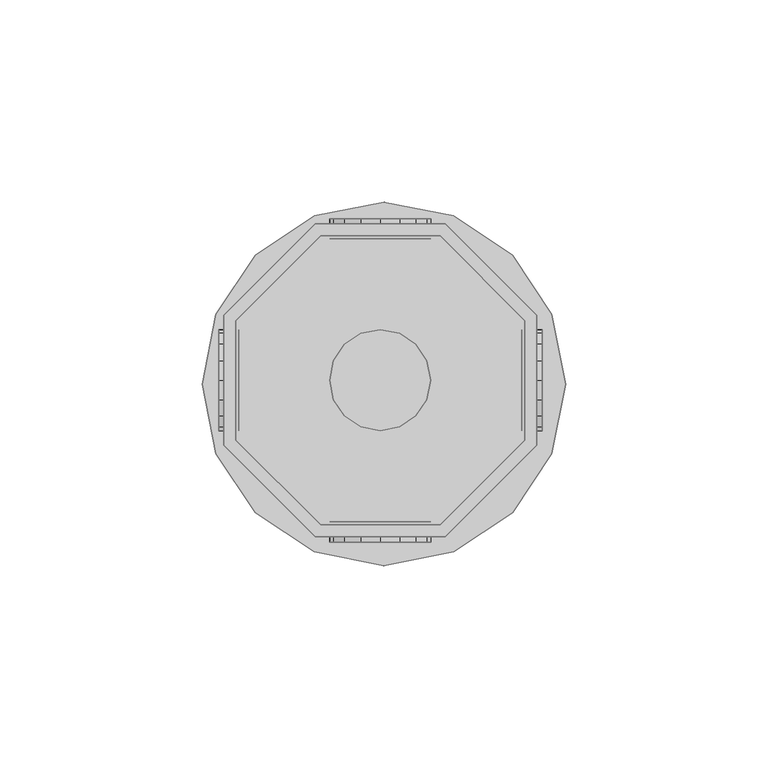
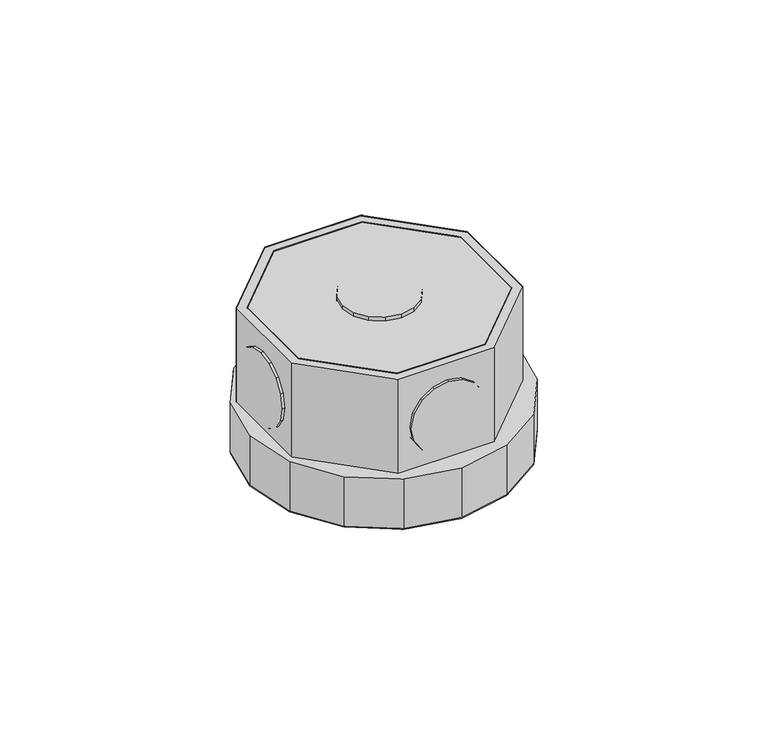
"""IFC4 building model written with IfcOpenShell, lengths in millimetres: light fixture geometry,  213928 :  213928."""

from ifc_helpers import new_model, si_unit, origin, place, context, project, spatial, triangles, source, transform, mapped, element, save


def light_fixture_44fb12f3(model_context):
    return source(origin(), model_context, "Body", "Tessellation", [
        triangles([(10490.0003998, 27008.0002991, 2924.5999741), (10460.399881, 27008.0002991, 2975.400071), (10460.399881, 27008.0002991, 2924.5999741), (10490.0003998, 27008.0002991, 2975.400071), (10491.2003265, 26933.5001953, 2924.5999741), (10459.0999603, 26933.5001953, 2975.400071), (10459.0999603, 26933.5001953, 2924.5999741), (10491.2003265, 26933.5001953, 2975.400071), (10439.4, 26986.9992554, 2975.400071), (10439.4, 26986.9992554, 2924.5999741), (10513.9001038, 26956.2011353, 2924.5999741), (10513.9001038, 26956.2011353, 2975.400071), (10439.4, 26957.401062, 2975.400071), (10439.4, 26957.401062, 2924.5999741), (10513.9001038, 26988.299176, 2924.5999741), (10513.9001038, 26988.299176, 2975.400071), (10460.399881, 26936.5000122, 2975.400071), (10460.399881, 26936.5000122, 2924.5999741), (10491.2003265, 27011.000116, 2924.5999741), (10491.2003265, 27011.000116, 2975.400071), (10490.0003998, 26936.5000122, 2924.5999741), (10490.0003998, 26936.5000122, 2975.400071), (10459.0999603, 27011.000116, 2975.400071), (10459.0999603, 27011.000116, 2924.5999741), (10510.9002869, 26957.401062, 2924.5999741), (10510.9002869, 26957.401062, 2975.400071), (10436.4001831, 26988.299176, 2975.400071), (10436.4001831, 26988.299176, 2924.5999741), (10436.4001831, 26956.2011353, 2975.400071), (10510.9002869, 26986.9992554, 2975.400071), (10510.9002869, 26986.9992554, 2924.5999741), (10436.4001831, 26956.2011353, 2924.5999741), (10439.4, 26957.401062, 2972.3999634), (10460.399881, 26936.5000122, 2972.3999634), (10490.0003998, 26936.5000122, 2972.3999634), (10510.9002869, 26957.401062, 2972.3999634), (10510.9002869, 26986.9992554, 2972.3999634), (10490.0003998, 27008.0002991, 2972.3999634), (10460.399881, 27008.0002991, 2972.3999634), (10439.4, 26986.9992554, 2972.3999634), (10436.4001831, 26988.299176, 2942.4000504), (10459.0999603, 27011.000116, 2942.4000504), (10491.2003265, 27011.000116, 2942.4000504), (10513.9001038, 26988.299176, 2942.4000504), (10513.9001038, 26956.2011353, 2942.4000504), (10491.2003265, 26933.5001953, 2942.4000504), (10459.0999603, 26933.5001953, 2942.4000504), (10436.4001831, 26956.2011353, 2942.4000504), (10458.7999786, 26929.8004211, 2942.4000504), (10434.5002991, 26954.098938, 2942.4000504), (10444.199707, 26939.4998291, 2942.4000504), (10431.1005066, 26971.3002136, 2942.4000504), (10434.5002991, 26988.5991577, 2942.4000504), (10444.199707, 27003.200592, 2942.4000504), (10458.7999786, 27012.9, 2942.4000504), (10476.1000854, 27016.2997925, 2942.4000504), (10493.3001984, 27012.9, 2942.4000504), (10517.5998779, 26988.5991577, 2942.4000504), (10507.90047, 27003.200592, 2942.4000504), (10476.1000854, 26926.3006348, 2942.4000504), (10493.3001984, 26929.8004211, 2942.4000504), (10507.90047, 26939.4998291, 2942.4000504), (10517.5998779, 26954.098938, 2942.4000504), (10521.0996643, 26971.3002136, 2942.4000504), (10434.5002991, 26954.098938, 2924.5999741), (10458.7999786, 26929.8004211, 2924.5999741), (10444.199707, 26939.4998291, 2924.5999741), (10431.1005066, 26971.3002136, 2924.5999741), (10434.5002991, 26988.5991577, 2924.5999741), (10444.199707, 27003.200592, 2924.5999741), (10458.7999786, 27012.9, 2924.5999741), (10476.1000854, 27016.2997925, 2924.5999741), (10493.3001984, 27012.9, 2924.5999741), (10517.5998779, 26988.5991577, 2924.5999741), (10507.90047, 27003.200592, 2924.5999741), (10476.1000854, 26926.3006348, 2924.5999741), (10493.3001984, 26929.8004211, 2924.5999741), (10507.90047, 26939.4998291, 2924.5999741), (10517.5998779, 26954.098938, 2924.5999741), (10521.0996643, 26971.3002136, 2924.5999741), (10463.5996857, 27012.2000427, 2952.6000092), (10470.4004333, 27012.2000427, 2945.9001274), (10466.2995209, 27012.2000427, 2948.5999626), (10462.6997406, 27012.2000427, 2957.4000069), (10475.2001404, 27012.2000427, 2944.8998978), (10463.5996857, 27012.2000427, 2962.2000046), (10479.9998474, 27012.2000427, 2945.9001274), (10466.2995209, 27012.2000427, 2966.2000511), (10483.9996033, 27012.2000427, 2948.5999626), (10470.4004333, 27012.2000427, 2968.8998863), (10486.6994385, 27012.2000427, 2952.6000092), (10475.2001404, 27012.2000427, 2969.900116), (10487.7005402, 27012.2000427, 2957.4000069), (10479.9998474, 27012.2000427, 2968.8998863), (10486.6994385, 27012.2000427, 2962.2000046), (10483.9996033, 27012.2000427, 2966.2000511), (10470.4004333, 27007.2003479, 2945.9001274), (10463.5996857, 27007.2003479, 2952.6000092), (10466.2995209, 27007.2003479, 2948.5999626), (10475.2001404, 27007.2003479, 2944.8998978), (10462.6997406, 27007.2003479, 2957.4000069), (10479.9998474, 27007.2003479, 2945.9001274), (10463.5996857, 27007.2003479, 2962.2000046), (10483.9996033, 27007.2003479, 2948.5999626), (10466.2995209, 27007.2003479, 2966.2000511), (10470.4004333, 27007.2003479, 2968.8998863), (10486.6994385, 27007.2003479, 2952.6000092), (10475.2001404, 27007.2003479, 2969.900116), (10487.7005402, 27007.2003479, 2957.4000069), (10479.9998474, 27007.2003479, 2968.8998863), (10486.6994385, 27007.2003479, 2962.2000046), (10483.9996033, 27007.2003479, 2966.2000511), (10463.5996857, 26937.1999695, 2952.6000092), (10470.4004333, 26937.1999695, 2945.9001274), (10466.2995209, 26937.1999695, 2948.5999626), (10462.6997406, 26937.1999695, 2957.4000069), (10475.2001404, 26937.1999695, 2944.8998978), (10463.5996857, 26937.1999695, 2962.2000046), (10479.9998474, 26937.1999695, 2945.9001274), (10466.2995209, 26937.1999695, 2966.2000511), (10483.9996033, 26937.1999695, 2948.5999626), (10470.4004333, 26937.1999695, 2968.8998863), (10486.6994385, 26937.1999695, 2952.6000092), (10475.2001404, 26937.1999695, 2969.900116), (10487.7005402, 26937.1999695, 2957.4000069), (10479.9998474, 26937.1999695, 2968.8998863), (10486.6994385, 26937.1999695, 2962.2000046), (10483.9996033, 26937.1999695, 2966.2000511), (10470.4004333, 26932.2002747, 2945.9001274), (10463.5996857, 26932.2002747, 2952.6000092), (10466.2995209, 26932.2002747, 2948.5999626), (10475.2001404, 26932.2002747, 2944.8998978), (10462.6997406, 26932.2002747, 2957.4000069), (10479.9998474, 26932.2002747, 2945.9001274), (10463.5996857, 26932.2002747, 2962.2000046), (10483.9996033, 26932.2002747, 2948.5999626), (10466.2995209, 26932.2002747, 2966.2000511), (10470.4004333, 26932.2002747, 2968.8998863), (10486.6994385, 26932.2002747, 2952.6000092), (10475.2001404, 26932.2002747, 2969.900116), (10487.7005402, 26932.2002747, 2957.4000069), (10479.9998474, 26932.2002747, 2968.8998863), (10486.6994385, 26932.2002747, 2962.2000046), (10483.9996033, 26932.2002747, 2966.2000511), (10440.1999512, 26967.4004517, 2945.9001274), (10440.1999512, 26960.7008606, 2952.6000092), (10440.1999512, 26963.4006958, 2948.5999626), (10440.1999512, 26972.2001587, 2944.8998978), (10440.1999512, 26959.7009216, 2957.4000069), (10440.1999512, 26976.9998657, 2945.9001274), (10440.1999512, 26960.7008606, 2962.2000046), (10440.1999512, 26981.0996155, 2948.5999626), (10440.1999512, 26963.4006958, 2966.2000511), (10440.1999512, 26967.4004517, 2968.8998863), (10440.1999512, 26983.7994507, 2952.6000092), (10440.1999512, 26972.2001587, 2969.900116), (10440.1999512, 26984.6993958, 2957.4000069), (10440.1999512, 26976.9998657, 2968.8998863), (10440.1999512, 26983.7994507, 2962.2000046), (10440.1999512, 26981.0996155, 2966.2000511), (10435.2002563, 26960.7008606, 2952.6000092), (10435.2002563, 26967.4004517, 2945.9001274), (10435.2002563, 26963.4006958, 2948.5999626), (10435.2002563, 26959.7009216, 2957.4000069), (10435.2002563, 26972.2001587, 2944.8998978), (10435.2002563, 26960.7008606, 2962.2000046), (10435.2002563, 26976.9998657, 2945.9001274), (10435.2002563, 26963.4006958, 2966.2000511), (10435.2002563, 26981.0996155, 2948.5999626), (10435.2002563, 26967.4004517, 2968.8998863), (10435.2002563, 26983.7994507, 2952.6000092), (10435.2002563, 26972.2001587, 2969.900116), (10435.2002563, 26984.6993958, 2957.4000069), (10435.2002563, 26976.9998657, 2968.8998863), (10435.2002563, 26983.7994507, 2962.2000046), (10435.2002563, 26981.0996155, 2966.2000511), (10515.2000244, 26967.4004517, 2945.9001274), (10515.2000244, 26960.7008606, 2952.6000092), (10515.2000244, 26963.4006958, 2948.5999626), (10515.2000244, 26972.2001587, 2944.8998978), (10515.2000244, 26959.7009216, 2957.4000069), (10515.2000244, 26976.9998657, 2945.9001274), (10515.2000244, 26960.7008606, 2962.2000046), (10515.2000244, 26981.0996155, 2948.5999626), (10515.2000244, 26963.4006958, 2966.2000511), (10515.2000244, 26967.4004517, 2968.8998863), (10515.2000244, 26983.7994507, 2952.6000092), (10515.2000244, 26972.2001587, 2969.900116), (10515.2000244, 26984.6993958, 2957.4000069), (10515.2000244, 26976.9998657, 2968.8998863), (10515.2000244, 26983.7994507, 2962.2000046), (10515.2000244, 26981.0996155, 2966.2000511), (10510.2003296, 26960.7008606, 2952.6000092), (10510.2003296, 26967.4004517, 2945.9001274), (10510.2003296, 26963.4006958, 2948.5999626), (10510.2003296, 26959.7009216, 2957.4000069), (10510.2003296, 26972.2001587, 2944.8998978), (10510.2003296, 26960.7008606, 2962.2000046), (10510.2003296, 26976.9998657, 2945.9001274), (10510.2003296, 26963.4006958, 2966.2000511), (10510.2003296, 26981.0996155, 2948.5999626), (10510.2003296, 26967.4004517, 2968.8998863), (10510.2003296, 26983.7994507, 2952.6000092), (10510.2003296, 26972.2001587, 2969.900116), (10510.2003296, 26984.6993958, 2957.4000069), (10510.2003296, 26976.9998657, 2968.8998863), (10510.2003296, 26983.7994507, 2962.2000046), (10510.2003296, 26981.0996155, 2966.2000511), (10470.4004333, 26960.7008606, 2976.9999733), (10463.5996857, 26967.4004517, 2976.9999733), (10466.2995209, 26963.4006958, 2976.9999733), (10462.6997406, 26972.2001587, 2976.9999733), (10475.2001404, 26959.7009216, 2976.9999733), (10463.5996857, 26976.9998657, 2976.9999733), (10479.9998474, 26960.7008606, 2976.9999733), (10466.2995209, 26981.0996155, 2976.9999733), (10483.9996033, 26963.4006958, 2976.9999733), (10470.4004333, 26983.7994507, 2976.9999733), (10486.6994385, 26967.4004517, 2976.9999733), (10475.2001404, 26984.6993958, 2976.9999733), (10487.7005402, 26972.2001587, 2976.9999733), (10479.9998474, 26983.7994507, 2976.9999733), (10486.6994385, 26976.9998657, 2976.9999733), (10483.9996033, 26981.0996155, 2976.9999733), (10463.5996857, 26967.4004517, 2971.9999878), (10470.4004333, 26960.7008606, 2971.9999878), (10466.2995209, 26963.4006958, 2971.9999878), (10462.6997406, 26972.2001587, 2971.9999878), (10475.2001404, 26959.7009216, 2971.9999878), (10463.5996857, 26976.9998657, 2971.9999878), (10479.9998474, 26960.7008606, 2971.9999878), (10466.2995209, 26981.0996155, 2971.9999878), (10483.9996033, 26963.4006958, 2971.9999878), (10470.4004333, 26983.7994507, 2971.9999878), (10486.6994385, 26967.4004517, 2971.9999878), (10475.2001404, 26984.6993958, 2971.9999878), (10487.7005402, 26972.2001587, 2971.9999878), (10479.9998474, 26983.7994507, 2971.9999878), (10486.6994385, 26976.9998657, 2971.9999878), (10483.9996033, 26981.0996155, 2971.9999878)], [[1, 2, 3], [2, 1, 4], [5, 6, 7], [6, 5, 8], [3, 9, 10], [9, 3, 2], [11, 8, 5], [8, 11, 12], [10, 13, 14], [13, 10, 9], [15, 12, 11], [12, 15, 16], [14, 17, 18], [17, 14, 13], [19, 16, 15], [16, 19, 20], [17, 21, 18], [21, 17, 22], [23, 19, 24], [19, 23, 20], [22, 25, 21], [25, 22, 26], [27, 24, 28], [24, 27, 23], [6, 13, 29], [29, 13, 27], [27, 13, 9], [27, 9, 23], [23, 9, 2], [23, 2, 4], [23, 4, 20], [20, 4, 30], [8, 17, 6], [6, 17, 13], [17, 8, 22], [12, 22, 8], [22, 12, 26], [30, 26, 12], [16, 30, 12], [20, 30, 16], [30, 1, 31], [1, 30, 4], [6, 32, 7], [32, 6, 29], [32, 14, 7], [28, 14, 32], [14, 28, 10], [24, 10, 28], [10, 24, 3], [1, 3, 24], [19, 1, 24], [31, 1, 19], [7, 18, 5], [14, 18, 7], [5, 18, 21], [5, 21, 11], [11, 21, 25], [11, 25, 31], [11, 31, 15], [15, 31, 19], [26, 31, 25], [31, 26, 30], [29, 28, 32], [28, 29, 27], [17, 33, 34], [33, 17, 13], [35, 17, 34], [17, 35, 22], [36, 22, 35], [22, 36, 26], [37, 26, 36], [26, 37, 30], [38, 30, 37], [30, 38, 4], [2, 38, 39], [38, 2, 4], [17, 9, 13], [9, 17, 22], [9, 22, 2], [2, 22, 26], [2, 26, 4], [4, 26, 30], [13, 40, 33], [40, 13, 9], [40, 34, 33], [35, 34, 40], [35, 40, 39], [35, 39, 36], [36, 39, 38], [36, 38, 37], [9, 39, 40], [39, 9, 2], [24, 41, 28], [41, 24, 42], [19, 42, 24], [42, 19, 43], [44, 19, 15], [19, 44, 43], [45, 15, 11], [15, 45, 44], [46, 11, 5], [11, 46, 45], [47, 5, 7], [5, 47, 46], [32, 47, 7], [47, 32, 48], [28, 48, 32], [48, 28, 41], [49, 50, 51], [48, 50, 49], [50, 48, 52], [41, 52, 48], [52, 41, 53], [53, 41, 54], [42, 54, 41], [54, 42, 55], [55, 42, 43], [55, 43, 56], [56, 43, 57], [57, 43, 44], [57, 44, 58], [57, 58, 59], [47, 49, 60], [49, 47, 48], [47, 60, 46], [61, 46, 60], [46, 61, 62], [46, 62, 45], [45, 62, 63], [44, 45, 63], [44, 63, 64], [44, 64, 58], [65, 66, 67], [66, 65, 32], [68, 32, 65], [32, 68, 28], [28, 68, 69], [70, 28, 69], [28, 70, 24], [71, 24, 70], [19, 24, 71], [19, 71, 72], [73, 19, 72], [19, 73, 15], [74, 15, 73], [74, 73, 75], [76, 66, 7], [32, 7, 66], [5, 76, 7], [76, 5, 77], [77, 5, 78], [11, 78, 5], [78, 11, 79], [79, 11, 15], [79, 15, 80], [80, 15, 74], [57, 75, 73], [75, 57, 59], [56, 73, 72], [73, 56, 57], [55, 72, 71], [72, 55, 56], [54, 71, 70], [71, 54, 55], [53, 70, 69], [70, 53, 54], [52, 69, 68], [69, 52, 53], [50, 68, 65], [68, 50, 52], [51, 65, 67], [65, 51, 50], [66, 51, 67], [51, 66, 49], [76, 49, 66], [49, 76, 60], [77, 60, 76], [60, 77, 61], [78, 61, 77], [61, 78, 62], [79, 62, 78], [62, 79, 63], [80, 63, 79], [63, 80, 64], [75, 58, 74], [58, 75, 59], [74, 64, 80], [64, 74, 58], [81, 82, 83], [82, 81, 84], [85, 82, 84], [85, 84, 86], [87, 85, 86], [87, 86, 88], [87, 88, 89], [89, 88, 90], [89, 90, 91], [91, 90, 92], [91, 92, 93], [93, 92, 94], [93, 94, 95], [95, 94, 96], [97, 98, 99], [98, 97, 100], [101, 98, 100], [101, 100, 102], [103, 101, 102], [103, 102, 104], [103, 104, 105], [105, 104, 106], [106, 104, 107], [106, 107, 108], [108, 107, 109], [108, 109, 110], [110, 109, 111], [110, 111, 112], [87, 104, 102], [104, 87, 89], [85, 102, 100], [102, 85, 87], [82, 100, 97], [100, 82, 85], [83, 97, 99], [97, 83, 82], [98, 83, 99], [83, 98, 81], [101, 81, 98], [81, 101, 84], [103, 84, 101], [84, 103, 86], [105, 86, 103], [86, 105, 88], [106, 88, 105], [88, 106, 90], [108, 90, 106], [90, 108, 92], [110, 92, 108], [92, 110, 94], [112, 94, 110], [94, 112, 96], [95, 112, 111], [112, 95, 96], [93, 111, 109], [111, 93, 95], [89, 107, 104], [107, 89, 91], [91, 109, 107], [109, 91, 93], [113, 114, 115], [114, 113, 116], [117, 114, 116], [117, 116, 118], [119, 117, 118], [119, 118, 120], [119, 120, 121], [121, 120, 122], [121, 122, 123], [123, 122, 124], [123, 124, 125], [125, 124, 126], [125, 126, 127], [127, 126, 128], [129, 130, 131], [130, 129, 132], [133, 130, 132], [133, 132, 134], [135, 133, 134], [135, 134, 136], [135, 136, 137], [137, 136, 138], [138, 136, 139], [138, 139, 140], [140, 139, 141], [140, 141, 142], [142, 141, 143], [142, 143, 144], [119, 136, 134], [136, 119, 121], [117, 134, 132], [134, 117, 119], [114, 132, 129], [132, 114, 117], [115, 129, 131], [129, 115, 114], [130, 115, 131], [115, 130, 113], [133, 113, 130], [113, 133, 116], [135, 116, 133], [116, 135, 118], [137, 118, 135], [118, 137, 120], [138, 120, 137], [120, 138, 122], [140, 122, 138], [122, 140, 124], [142, 124, 140], [124, 142, 126], [144, 126, 142], [126, 144, 128], [127, 144, 143], [144, 127, 128], [125, 143, 141], [143, 125, 127], [121, 139, 136], [139, 121, 123], [123, 141, 139], [141, 123, 125], [145, 146, 147], [146, 145, 148], [149, 146, 148], [149, 148, 150], [151, 149, 150], [151, 150, 152], [151, 152, 153], [153, 152, 154], [154, 152, 155], [154, 155, 156], [156, 155, 157], [156, 157, 158], [158, 157, 159], [158, 159, 160], [161, 162, 163], [162, 161, 164], [165, 162, 164], [165, 164, 166], [167, 165, 166], [167, 166, 168], [169, 167, 168], [169, 168, 170], [169, 170, 171], [171, 170, 172], [171, 172, 173], [173, 172, 174], [173, 174, 175], [175, 174, 176], [158, 176, 174], [176, 158, 160], [156, 174, 172], [174, 156, 158], [154, 172, 170], [172, 154, 156], [153, 170, 168], [170, 153, 154], [151, 168, 166], [168, 151, 153], [149, 166, 164], [166, 149, 151], [146, 164, 161], [164, 146, 149], [147, 161, 163], [161, 147, 146], [162, 147, 163], [147, 162, 145], [165, 145, 162], [145, 165, 148], [167, 148, 165], [148, 167, 150], [169, 150, 167], [150, 169, 152], [171, 152, 169], [152, 171, 155], [173, 155, 171], [155, 173, 157], [176, 159, 175], [159, 176, 160], [175, 157, 173], [157, 175, 159], [177, 178, 179], [178, 177, 180], [181, 178, 180], [181, 180, 182], [183, 181, 182], [183, 182, 184], [183, 184, 185], [185, 184, 186], [186, 184, 187], [186, 187, 188], [188, 187, 189], [188, 189, 190], [190, 189, 191], [190, 191, 192], [193, 194, 195], [194, 193, 196], [197, 194, 196], [197, 196, 198], [199, 197, 198], [199, 198, 200], [201, 199, 200], [201, 200, 202], [201, 202, 203], [203, 202, 204], [203, 204, 205], [205, 204, 206], [205, 206, 207], [207, 206, 208], [190, 208, 206], [208, 190, 192], [188, 206, 204], [206, 188, 190], [186, 204, 202], [204, 186, 188], [185, 202, 200], [202, 185, 186], [183, 200, 198], [200, 183, 185], [181, 198, 196], [198, 181, 183], [178, 196, 193], [196, 178, 181], [179, 193, 195], [193, 179, 178], [194, 179, 195], [179, 194, 177], [197, 177, 194], [177, 197, 180], [199, 180, 197], [180, 199, 182], [201, 182, 199], [182, 201, 184], [203, 184, 201], [184, 203, 187], [205, 187, 203], [187, 205, 189], [208, 191, 207], [191, 208, 192], [207, 189, 205], [189, 207, 191], [209, 210, 211], [212, 210, 209], [212, 209, 213], [214, 212, 213], [214, 213, 215], [216, 214, 215], [216, 215, 217], [216, 217, 218], [218, 217, 219], [218, 219, 220], [220, 219, 221], [220, 221, 222], [222, 221, 223], [222, 223, 224], [225, 226, 227], [226, 225, 228], [229, 226, 228], [229, 228, 230], [231, 229, 230], [231, 230, 232], [231, 232, 233], [233, 232, 234], [233, 234, 235], [235, 234, 236], [235, 236, 237], [237, 236, 238], [237, 238, 239], [239, 238, 240], [222, 240, 238], [240, 222, 224], [220, 238, 236], [238, 220, 222], [218, 236, 234], [236, 218, 220], [216, 234, 232], [234, 216, 218], [214, 232, 230], [232, 214, 216], [212, 230, 228], [230, 212, 214], [210, 228, 225], [228, 210, 212], [211, 225, 227], [225, 211, 210], [226, 211, 227], [211, 226, 209], [229, 209, 226], [209, 229, 213], [231, 213, 229], [213, 231, 215], [233, 215, 231], [215, 233, 217], [235, 217, 233], [217, 235, 219], [237, 219, 235], [219, 237, 221], [240, 223, 239], [223, 240, 224], [239, 221, 237], [221, 239, 223]], closed=False),
    ])


if __name__ == "__main__":
    model = new_model("IFC4")
    model_context = context("Model", 3, world=origin())
    ifc_project = project(units=[si_unit("LENGTHUNIT", "METRE", prefix="MILLI")], contexts=[model_context])
    site = spatial("IfcSite", under=ifc_project)
    building = spatial("IfcBuilding", under=site)
    placement = place(None, origin())
    light_fixture_shape = light_fixture_44fb12f3(model_context)
    element("IfcLightFixture", 1, ObjectType=" 213928 :  213928", at=placement, inside=building, context=model_context, shape_type="MappedRepresentation", body=[
        mapped(light_fixture_shape, transform((0.0, 0.0, 0.0), x_axis=(1.0, 0.0, 0.0), y_axis=(0.0, 1.0, 0.0), z_axis=(0.0, 0.0, 1.0))),
    ])
    save(model, "model.ifc")
